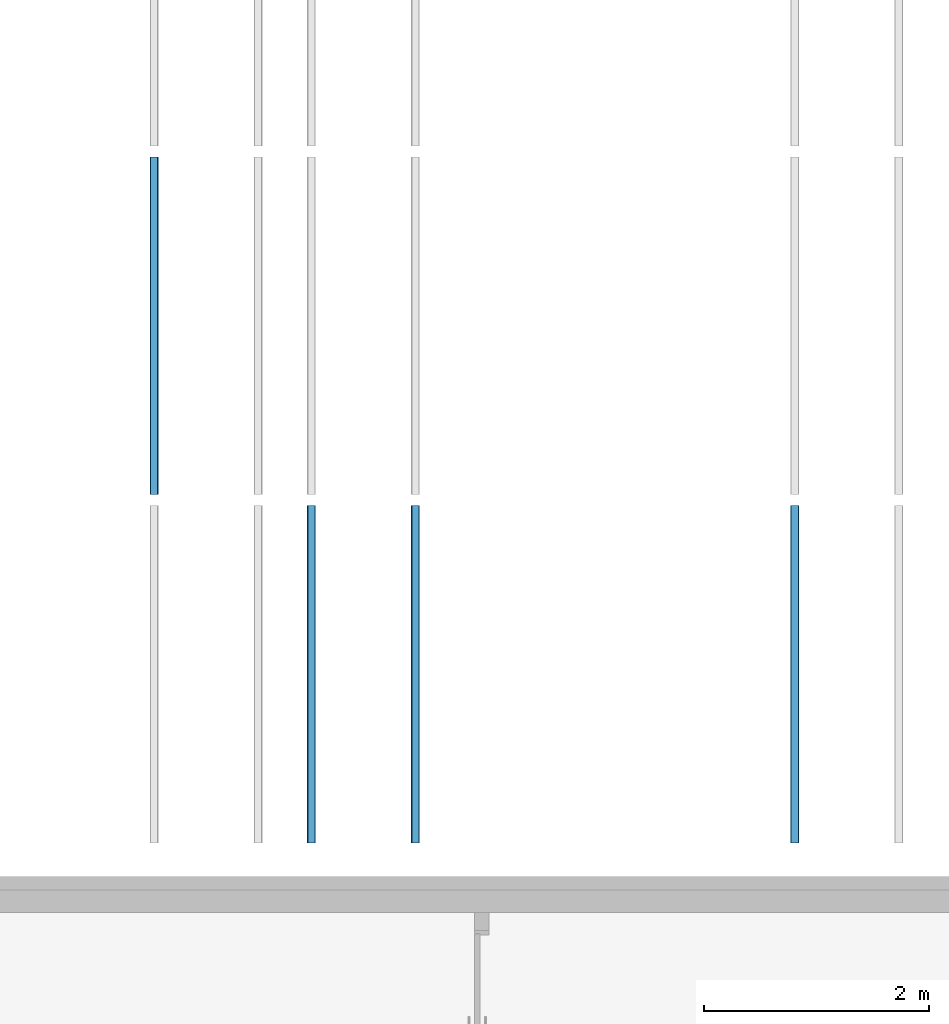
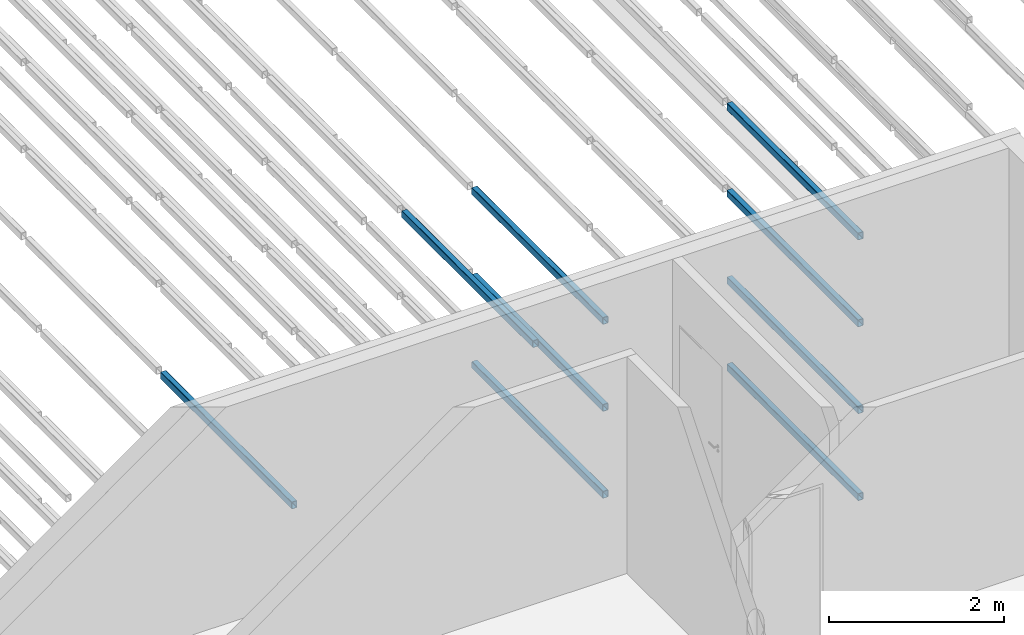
# One storey, part 28 of 290: 9 beams.
"""IFC2X3 building model written with IfcOpenShell, lengths in metres."""

from ifc_helpers import new_model, entity, si_unit, converted_unit, derived_unit, direction, frame, frame_2d, origin, place, context, subcontext, project, spatial, polyline, circle_curve, parameter, trimmed, segment, composite_curve, outline, extrude, material, type_object, element, save


model = new_model("IFC2X3")

# Units and contexts
model_context = context("Model", 3, precision=1e-05, world=origin(), true_north=direction((6.12303176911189e-17, 1.0)))
body_context = subcontext(model_context, "Body", "Model", "MODEL_VIEW")
ifc_project = project(units=[si_unit("LENGTHUNIT", "METRE"), si_unit("AREAUNIT", "SQUARE_METRE"), si_unit("VOLUMEUNIT", "CUBIC_METRE"), converted_unit("PLANEANGLEUNIT", "DEGREE", entity("IfcRatioMeasure", 0.0174532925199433), si_unit("PLANEANGLEUNIT", "RADIAN"), dimensions=[0, 0, 0, 0, 0, 0, 0]), si_unit("MASSUNIT", "GRAM", prefix="KILO"), derived_unit("MASSDENSITYUNIT", [(si_unit("MASSUNIT", "GRAM", prefix="KILO"), 1), (si_unit("LENGTHUNIT", "METRE"), -3)]), derived_unit("MOMENTOFINERTIAUNIT", [(si_unit("LENGTHUNIT", "METRE"), 4)]), si_unit("TIMEUNIT", "SECOND"), si_unit("FREQUENCYUNIT", "HERTZ"), si_unit("THERMODYNAMICTEMPERATUREUNIT", "DEGREE_CELSIUS"), derived_unit("THERMALTRANSMITTANCEUNIT", [(si_unit("MASSUNIT", "GRAM", prefix="KILO"), 1), (si_unit("THERMODYNAMICTEMPERATUREUNIT", "KELVIN"), -1), (si_unit("TIMEUNIT", "SECOND"), -3)]), derived_unit("VOLUMETRICFLOWRATEUNIT", [(si_unit("LENGTHUNIT", "METRE"), 3), (si_unit("TIMEUNIT", "SECOND"), -1)]), si_unit("ELECTRICCURRENTUNIT", "AMPERE"), si_unit("ELECTRICVOLTAGEUNIT", "VOLT"), si_unit("POWERUNIT", "WATT"), si_unit("FORCEUNIT", "NEWTON", prefix="KILO"), si_unit("ILLUMINANCEUNIT", "LUX"), si_unit("LUMINOUSFLUXUNIT", "LUMEN"), si_unit("LUMINOUSINTENSITYUNIT", "CANDELA"), derived_unit("USERDEFINED", [(si_unit("MASSUNIT", "GRAM", prefix="KILO"), -1), (si_unit("LENGTHUNIT", "METRE"), -2), (si_unit("TIMEUNIT", "SECOND"), 3), (si_unit("LUMINOUSFLUXUNIT", "LUMEN"), 1)]), derived_unit("LINEARVELOCITYUNIT", [(si_unit("LENGTHUNIT", "METRE"), 1), (si_unit("TIMEUNIT", "SECOND"), -1)]), si_unit("PRESSUREUNIT", "PASCAL"), derived_unit("USERDEFINED", [(si_unit("LENGTHUNIT", "METRE"), -2), (si_unit("MASSUNIT", "GRAM", prefix="KILO"), 1), (si_unit("TIMEUNIT", "SECOND"), -2)]), derived_unit("LINEARFORCEUNIT", [(si_unit("MASSUNIT", "GRAM", prefix="KILO"), 1), (si_unit("LENGTHUNIT", "METRE"), 1), (si_unit("TIMEUNIT", "SECOND"), -2), (si_unit("LENGTHUNIT", "METRE"), -1)]), derived_unit("PLANARFORCEUNIT", [(si_unit("MASSUNIT", "GRAM", prefix="KILO"), 1), (si_unit("LENGTHUNIT", "METRE"), 1), (si_unit("TIMEUNIT", "SECOND"), -2), (si_unit("LENGTHUNIT", "METRE"), -2)])], contexts=[model_context])

# Site, building, storey
site_placement = place(None, origin())
site = spatial("IfcSite", under=ifc_project, at=site_placement, Name="Default", CompositionType="ELEMENT")
building_placement = place(site_placement, origin())
building = spatial("IfcBuilding", under=site, at=building_placement, CompositionType="ELEMENT")
storey_placement = place(building_placement, frame((0.0, 0.0, 4.0)))
storey = spatial("IfcBuildingStorey", under=building, at=storey_placement, Name="01_OG", CompositionType="ELEMENT", Elevation=4.0)

# Beams
ifc_material = material(Name="Metall - Baustahl S235 blau")
beam_type = type_object("IfcBeamType", Name="RHS Träger (EN 10219-2):RHS 100 x 75 x 5", PredefinedType="NOTDEFINED")
beam_1_placement = place(storey_placement, frame((-183.615111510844, 24.048088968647, 2.445), z_axis=(0.0, 0.0, 1.0), x_axis=(0.0, 1.0, 0.0)))
element("IfcBeam", 1, at=beam_1_placement, inside=storey, type_object=beam_type, material=ifc_material, Name="RHS Träger (EN 10219-2):RHS 100 x 75 x 5", ObjectType="RHS Träger (EN 10219-2):RHS 100 x 75 x 5", context=body_context, shape_type="SweptSolid", body=[
    extrude(outline(composite_curve([segment(trimmed(circle_curve(frame_2d((-0.0274999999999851, -0.0399999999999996), x_axis=(1.0, 0.0)), 0.01), [parameter(180.0)], [parameter(270.0)], True, "PARAMETER"), True, "CONTINUOUS"), segment(polyline([(-0.0274999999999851, -0.0499999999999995), (0.0274999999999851, -0.0499999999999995)]), True, "CONTINUOUS"), segment(trimmed(circle_curve(frame_2d((0.0274999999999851, -0.0399999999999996), x_axis=(1.0, 0.0)), 0.01), [parameter(270.0)], [parameter(5.08888749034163e-14)], True, "PARAMETER"), True, "CONTINUOUS"), segment(polyline([(0.0375000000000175, -0.0399999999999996), (0.0375000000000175, 0.0399999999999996)]), True, "CONTINUOUS"), segment(trimmed(circle_curve(frame_2d((0.0274999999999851, 0.0399999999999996), x_axis=(1.0, 0.0)), 0.01), [parameter(360.0)], [parameter(89.9999999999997)], True, "PARAMETER"), True, "CONTINUOUS"), segment(polyline([(0.0274999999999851, 0.0500000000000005), (-0.0274999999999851, 0.0500000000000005)]), True, "CONTINUOUS"), segment(trimmed(circle_curve(frame_2d((-0.0274999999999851, 0.0399999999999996), x_axis=(1.0, 0.0)), 0.01), [parameter(90.0000000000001)], [parameter(180.0)], True, "PARAMETER"), True, "CONTINUOUS"), segment(polyline([(-0.0374999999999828, 0.0399999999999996), (-0.0374999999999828, -0.0399999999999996)]), True, "CONTINUOUS")], self_intersect=False), holes=[composite_curve([segment(polyline([(0.0274999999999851, -0.0450000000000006), (-0.0274999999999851, -0.0450000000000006)]), True, "CONTINUOUS"), segment(trimmed(circle_curve(frame_2d((-0.0274999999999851, -0.0400000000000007), x_axis=(1.0, 0.0)), 0.005), [parameter(180.0)], [parameter(270.0)], True, "PARAMETER"), False, "CONTINUOUS"), segment(polyline([(-0.0325000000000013, -0.0400000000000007), (-0.0325000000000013, 0.0399999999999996)]), True, "CONTINUOUS"), segment(trimmed(circle_curve(frame_2d((-0.0274999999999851, 0.0399999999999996), x_axis=(1.0, 0.0)), 0.005), [parameter(90.0000000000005)], [parameter(180.0)], True, "PARAMETER"), False, "CONTINUOUS"), segment(polyline([(-0.0274999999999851, 0.0449999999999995), (0.0274999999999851, 0.0449999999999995)]), True, "CONTINUOUS"), segment(trimmed(circle_curve(frame_2d((0.0274999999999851, 0.0399999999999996), x_axis=(1.0, 0.0)), 0.005), [parameter(0.0)], [parameter(90.0000000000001)], True, "PARAMETER"), False, "CONTINUOUS"), segment(polyline([(0.0325000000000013, 0.0399999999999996), (0.0325000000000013, -0.0400000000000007)]), True, "CONTINUOUS"), segment(trimmed(circle_curve(frame_2d((0.0274999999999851, -0.0400000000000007), x_axis=(1.0, 0.0)), 0.005), [parameter(270.0)], [parameter(4.07110999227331e-13)], True, "PARAMETER"), False, "CONTINUOUS")], self_intersect=False)]), frame((9.99999999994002e-05, 0.0375000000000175, -0.0500000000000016), z_axis=(1.0, 0.0, 0.0), x_axis=(0.0, -1.0, 0.0)), (0.0, 0.0, 1.0), 2.9998),
])
beam_2_placement = place(storey_placement, frame((-182.765111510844, 24.048088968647, 0.0150000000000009), z_axis=(0.0, 0.0, 1.0), x_axis=(0.0, 1.0, 0.0)))
element("IfcBeam", 2, at=beam_2_placement, inside=storey, type_object=beam_type, material=ifc_material, Name="RHS Träger (EN 10219-2):RHS 100 x 75 x 5", ObjectType="RHS Träger (EN 10219-2):RHS 100 x 75 x 5", context=body_context, shape_type="SweptSolid", body=[
    extrude(outline(composite_curve([segment(polyline([(-0.0400000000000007, -0.0374999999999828), (0.0399999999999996, -0.0374999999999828)]), True, "CONTINUOUS"), segment(trimmed(circle_curve(frame_2d((0.0399999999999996, -0.0274999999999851), x_axis=(0.0, 1.0)), 0.01), [parameter(180.0)], [parameter(270.0)], True, "PARAMETER"), True, "CONTINUOUS"), segment(polyline([(0.0499999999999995, -0.0274999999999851), (0.0499999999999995, 0.0274999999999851)]), True, "CONTINUOUS"), segment(trimmed(circle_curve(frame_2d((0.0399999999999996, 0.0274999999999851), x_axis=(0.0, 1.0)), 0.01), [parameter(270.0)], [parameter(4.07110999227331e-13)], True, "PARAMETER"), True, "CONTINUOUS"), segment(polyline([(0.0399999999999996, 0.0375000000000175), (-0.0400000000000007, 0.0375000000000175)]), True, "CONTINUOUS"), segment(trimmed(circle_curve(frame_2d((-0.0400000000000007, 0.0274999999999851), x_axis=(0.0, 1.0)), 0.01), [parameter(360.0)], [parameter(90.0000000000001)], True, "PARAMETER"), True, "CONTINUOUS"), segment(polyline([(-0.0500000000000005, 0.0274999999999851), (-0.0500000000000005, -0.0274999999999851)]), True, "CONTINUOUS"), segment(trimmed(circle_curve(frame_2d((-0.0400000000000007, -0.0274999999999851), x_axis=(0.0, 1.0)), 0.01), [parameter(90.0000000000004)], [parameter(180.0)], True, "PARAMETER"), True, "CONTINUOUS")], self_intersect=False), holes=[composite_curve([segment(trimmed(circle_curve(frame_2d((-0.0400000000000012, 0.0274999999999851), x_axis=(0.0, 1.0)), 0.005), [parameter(360.0)], [parameter(89.9999999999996)], True, "PARAMETER"), False, "CONTINUOUS"), segment(polyline([(-0.0400000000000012, 0.0325000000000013), (0.0399999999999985, 0.0325000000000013)]), True, "CONTINUOUS"), segment(trimmed(circle_curve(frame_2d((0.0399999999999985, 0.0274999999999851), x_axis=(0.0, 1.0)), 0.005), [parameter(270.0)], [parameter(0.0)], True, "PARAMETER"), False, "CONTINUOUS"), segment(polyline([(0.0449999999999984, 0.0274999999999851), (0.0449999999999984, -0.0274999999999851)]), True, "CONTINUOUS"), segment(trimmed(circle_curve(frame_2d((0.0399999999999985, -0.0274999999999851), x_axis=(0.0, 1.0)), 0.005), [parameter(180.0)], [parameter(269.999999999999)], True, "PARAMETER"), False, "CONTINUOUS"), segment(polyline([(0.0399999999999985, -0.0325000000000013), (-0.0400000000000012, -0.0325000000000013)]), True, "CONTINUOUS"), segment(trimmed(circle_curve(frame_2d((-0.0400000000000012, -0.0274999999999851), x_axis=(0.0, 1.0)), 0.005), [parameter(90.0000000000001)], [parameter(180.0)], True, "PARAMETER"), False, "CONTINUOUS"), segment(polyline([(-0.0450000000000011, -0.0274999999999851), (-0.0450000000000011, 0.0274999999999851)]), True, "CONTINUOUS")], self_intersect=False)]), frame((9.99999999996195e-05, -0.0375000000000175, -0.0500000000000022), z_axis=(1.0, 0.0, 0.0), x_axis=(0.0, 0.0, -1.0)), (0.0, 0.0, 1.0), 2.9998),
])
beam_3_placement = place(storey_placement, frame((-182.765111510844, 24.048088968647, 1.23), z_axis=(0.0, 0.0, 1.0), x_axis=(0.0, 1.0, 0.0)))
element("IfcBeam", 3, at=beam_3_placement, inside=storey, type_object=beam_type, material=ifc_material, Name="RHS Träger (EN 10219-2):RHS 100 x 75 x 5", ObjectType="RHS Träger (EN 10219-2):RHS 100 x 75 x 5", context=body_context, shape_type="SweptSolid", body=[
    extrude(outline(composite_curve([segment(polyline([(-0.0399999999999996, -0.0374999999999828), (0.0399999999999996, -0.0374999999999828)]), True, "CONTINUOUS"), segment(trimmed(circle_curve(frame_2d((0.0399999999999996, -0.0274999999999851), x_axis=(0.0, 1.0)), 0.01), [parameter(180.0)], [parameter(270.0)], True, "PARAMETER"), True, "CONTINUOUS"), segment(polyline([(0.0500000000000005, -0.0274999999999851), (0.0500000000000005, 0.0274999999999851)]), True, "CONTINUOUS"), segment(trimmed(circle_curve(frame_2d((0.0399999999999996, 0.0274999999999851), x_axis=(0.0, 1.0)), 0.01), [parameter(270.0)], [parameter(4.07110999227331e-13)], True, "PARAMETER"), True, "CONTINUOUS"), segment(polyline([(0.0399999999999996, 0.0375000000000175), (-0.0399999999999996, 0.0375000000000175)]), True, "CONTINUOUS"), segment(trimmed(circle_curve(frame_2d((-0.0399999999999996, 0.0274999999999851), x_axis=(0.0, 1.0)), 0.01), [parameter(360.0)], [parameter(90.0000000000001)], True, "PARAMETER"), True, "CONTINUOUS"), segment(polyline([(-0.0499999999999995, 0.0274999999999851), (-0.0499999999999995, -0.0274999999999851)]), True, "CONTINUOUS"), segment(trimmed(circle_curve(frame_2d((-0.0399999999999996, -0.0274999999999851), x_axis=(0.0, 1.0)), 0.01), [parameter(90.0000000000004)], [parameter(180.0)], True, "PARAMETER"), True, "CONTINUOUS")], self_intersect=False), holes=[composite_curve([segment(trimmed(circle_curve(frame_2d((-0.0400000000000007, 0.0274999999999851), x_axis=(0.0, 1.0)), 0.005), [parameter(360.0)], [parameter(89.9999999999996)], True, "PARAMETER"), False, "CONTINUOUS"), segment(polyline([(-0.0400000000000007, 0.0325000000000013), (0.0399999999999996, 0.0325000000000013)]), True, "CONTINUOUS"), segment(trimmed(circle_curve(frame_2d((0.0399999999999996, 0.0274999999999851), x_axis=(0.0, 1.0)), 0.005), [parameter(270.0)], [parameter(0.0)], True, "PARAMETER"), False, "CONTINUOUS"), segment(polyline([(0.0449999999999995, 0.0274999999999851), (0.0449999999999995, -0.0274999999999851)]), True, "CONTINUOUS"), segment(trimmed(circle_curve(frame_2d((0.0399999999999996, -0.0274999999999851), x_axis=(0.0, 1.0)), 0.005), [parameter(180.0)], [parameter(269.999999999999)], True, "PARAMETER"), False, "CONTINUOUS"), segment(polyline([(0.0399999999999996, -0.0325000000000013), (-0.0400000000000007, -0.0325000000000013)]), True, "CONTINUOUS"), segment(trimmed(circle_curve(frame_2d((-0.0400000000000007, -0.0274999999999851), x_axis=(0.0, 1.0)), 0.005), [parameter(90.0000000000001)], [parameter(180.0)], True, "PARAMETER"), False, "CONTINUOUS"), segment(polyline([(-0.0450000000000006, -0.0274999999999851), (-0.0450000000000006, 0.0274999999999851)]), True, "CONTINUOUS")], self_intersect=False)]), frame((9.99999999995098e-05, -0.0375000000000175, -0.0500000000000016), z_axis=(1.0, 0.0, 0.0), x_axis=(0.0, 0.0, -1.0)), (0.0, 0.0, 1.0), 2.9998),
])
beam_4_placement = place(storey_placement, frame((-182.765111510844, 24.048088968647, 2.445), z_axis=(0.0, 0.0, 1.0), x_axis=(0.0, 1.0, 0.0)))
element("IfcBeam", 4, at=beam_4_placement, inside=storey, type_object=beam_type, material=ifc_material, Name="RHS Träger (EN 10219-2):RHS 100 x 75 x 5", ObjectType="RHS Träger (EN 10219-2):RHS 100 x 75 x 5", context=body_context, shape_type="SweptSolid", body=[
    extrude(outline(composite_curve([segment(polyline([(-0.0399999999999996, -0.0374999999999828), (0.0399999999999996, -0.0374999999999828)]), True, "CONTINUOUS"), segment(trimmed(circle_curve(frame_2d((0.0399999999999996, -0.0274999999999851), x_axis=(0.0, 1.0)), 0.01), [parameter(180.0)], [parameter(270.0)], True, "PARAMETER"), True, "CONTINUOUS"), segment(polyline([(0.0500000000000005, -0.0274999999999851), (0.0500000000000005, 0.0274999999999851)]), True, "CONTINUOUS"), segment(trimmed(circle_curve(frame_2d((0.0399999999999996, 0.0274999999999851), x_axis=(0.0, 1.0)), 0.01), [parameter(270.0)], [parameter(4.07110999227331e-13)], True, "PARAMETER"), True, "CONTINUOUS"), segment(polyline([(0.0399999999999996, 0.0375000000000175), (-0.0399999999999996, 0.0375000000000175)]), True, "CONTINUOUS"), segment(trimmed(circle_curve(frame_2d((-0.0399999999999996, 0.0274999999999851), x_axis=(0.0, 1.0)), 0.01), [parameter(360.0)], [parameter(90.0000000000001)], True, "PARAMETER"), True, "CONTINUOUS"), segment(polyline([(-0.0499999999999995, 0.0274999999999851), (-0.0499999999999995, -0.0274999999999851)]), True, "CONTINUOUS"), segment(trimmed(circle_curve(frame_2d((-0.0399999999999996, -0.0274999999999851), x_axis=(0.0, 1.0)), 0.01), [parameter(90.0000000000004)], [parameter(180.0)], True, "PARAMETER"), True, "CONTINUOUS")], self_intersect=False), holes=[composite_curve([segment(trimmed(circle_curve(frame_2d((-0.0400000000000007, 0.0274999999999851), x_axis=(0.0, 1.0)), 0.005), [parameter(360.0)], [parameter(89.9999999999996)], True, "PARAMETER"), False, "CONTINUOUS"), segment(polyline([(-0.0400000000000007, 0.0325000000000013), (0.0399999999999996, 0.0325000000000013)]), True, "CONTINUOUS"), segment(trimmed(circle_curve(frame_2d((0.0399999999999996, 0.0274999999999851), x_axis=(0.0, 1.0)), 0.005), [parameter(270.0)], [parameter(0.0)], True, "PARAMETER"), False, "CONTINUOUS"), segment(polyline([(0.0449999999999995, 0.0274999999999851), (0.0449999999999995, -0.0274999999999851)]), True, "CONTINUOUS"), segment(trimmed(circle_curve(frame_2d((0.0399999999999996, -0.0274999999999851), x_axis=(0.0, 1.0)), 0.005), [parameter(180.0)], [parameter(269.999999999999)], True, "PARAMETER"), False, "CONTINUOUS"), segment(polyline([(0.0399999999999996, -0.0325000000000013), (-0.0400000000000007, -0.0325000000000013)]), True, "CONTINUOUS"), segment(trimmed(circle_curve(frame_2d((-0.0400000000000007, -0.0274999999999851), x_axis=(0.0, 1.0)), 0.005), [parameter(90.0000000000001)], [parameter(180.0)], True, "PARAMETER"), False, "CONTINUOUS"), segment(polyline([(-0.0450000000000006, -0.0274999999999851), (-0.0450000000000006, 0.0274999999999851)]), True, "CONTINUOUS")], self_intersect=False)]), frame((9.99999999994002e-05, -0.0375000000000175, -0.0500000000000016), z_axis=(1.0, 0.0, 0.0), x_axis=(0.0, 0.0, -1.0)), (0.0, 0.0, 1.0), 2.9998),
])
beam_5_placement = place(storey_placement, frame((-179.315111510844, 24.048088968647, 0.0150000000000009), z_axis=(0.0, 0.0, 1.0), x_axis=(0.0, 1.0, 0.0)))
element("IfcBeam", 5, at=beam_5_placement, inside=storey, type_object=beam_type, material=ifc_material, Name="RHS Träger (EN 10219-2):RHS 100 x 75 x 5", ObjectType="RHS Träger (EN 10219-2):RHS 100 x 75 x 5", context=body_context, shape_type="SweptSolid", body=[
    extrude(outline(composite_curve([segment(trimmed(circle_curve(frame_2d((-0.0274999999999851, -0.0400000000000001), x_axis=(1.0, 0.0)), 0.01), [parameter(180.0)], [parameter(270.0)], True, "PARAMETER"), True, "CONTINUOUS"), segment(polyline([(-0.0274999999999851, -0.05), (0.0274999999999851, -0.05)]), True, "CONTINUOUS"), segment(trimmed(circle_curve(frame_2d((0.0274999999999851, -0.0400000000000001), x_axis=(1.0, 0.0)), 0.01), [parameter(270.0)], [parameter(5.08888749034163e-14)], True, "PARAMETER"), True, "CONTINUOUS"), segment(polyline([(0.0375000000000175, -0.0400000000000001), (0.0375000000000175, 0.0400000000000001)]), True, "CONTINUOUS"), segment(trimmed(circle_curve(frame_2d((0.0274999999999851, 0.0400000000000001), x_axis=(1.0, 0.0)), 0.01), [parameter(360.0)], [parameter(89.9999999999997)], True, "PARAMETER"), True, "CONTINUOUS"), segment(polyline([(0.0274999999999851, 0.05), (-0.0274999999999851, 0.05)]), True, "CONTINUOUS"), segment(trimmed(circle_curve(frame_2d((-0.0274999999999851, 0.0400000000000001), x_axis=(1.0, 0.0)), 0.01), [parameter(90.0000000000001)], [parameter(180.0)], True, "PARAMETER"), True, "CONTINUOUS"), segment(polyline([(-0.0374999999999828, 0.0400000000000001), (-0.0374999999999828, -0.0400000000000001)]), True, "CONTINUOUS")], self_intersect=False), holes=[composite_curve([segment(polyline([(0.0274999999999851, -0.0450000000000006), (-0.0274999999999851, -0.0450000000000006)]), True, "CONTINUOUS"), segment(trimmed(circle_curve(frame_2d((-0.0274999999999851, -0.0400000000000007), x_axis=(1.0, 0.0)), 0.005), [parameter(180.0)], [parameter(270.0)], True, "PARAMETER"), False, "CONTINUOUS"), segment(polyline([(-0.0325000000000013, -0.0400000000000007), (-0.0325000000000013, 0.039999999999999)]), True, "CONTINUOUS"), segment(trimmed(circle_curve(frame_2d((-0.0274999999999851, 0.039999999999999), x_axis=(1.0, 0.0)), 0.005), [parameter(90.0000000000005)], [parameter(180.0)], True, "PARAMETER"), False, "CONTINUOUS"), segment(polyline([(-0.0274999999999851, 0.044999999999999), (0.0274999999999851, 0.044999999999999)]), True, "CONTINUOUS"), segment(trimmed(circle_curve(frame_2d((0.0274999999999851, 0.039999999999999), x_axis=(1.0, 0.0)), 0.005), [parameter(0.0)], [parameter(90.0000000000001)], True, "PARAMETER"), False, "CONTINUOUS"), segment(polyline([(0.0325000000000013, 0.039999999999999), (0.0325000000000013, -0.0400000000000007)]), True, "CONTINUOUS"), segment(trimmed(circle_curve(frame_2d((0.0274999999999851, -0.0400000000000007), x_axis=(1.0, 0.0)), 0.005), [parameter(270.0)], [parameter(4.07110999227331e-13)], True, "PARAMETER"), False, "CONTINUOUS")], self_intersect=False)]), frame((9.99999999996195e-05, 0.0375000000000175, -0.0500000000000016), z_axis=(1.0, 0.0, 0.0), x_axis=(0.0, -1.0, 0.0)), (0.0, 0.0, 1.0), 2.9998),
])
beam_6_placement = place(storey_placement, frame((-179.315111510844, 24.048088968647, 1.23), z_axis=(0.0, 0.0, 1.0), x_axis=(0.0, 1.0, 0.0)))
element("IfcBeam", 6, at=beam_6_placement, inside=storey, type_object=beam_type, material=ifc_material, Name="RHS Träger (EN 10219-2):RHS 100 x 75 x 5", ObjectType="RHS Träger (EN 10219-2):RHS 100 x 75 x 5", context=body_context, shape_type="SweptSolid", body=[
    extrude(outline(composite_curve([segment(trimmed(circle_curve(frame_2d((-0.0274999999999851, -0.0399999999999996), x_axis=(1.0, 0.0)), 0.01), [parameter(180.0)], [parameter(270.0)], True, "PARAMETER"), True, "CONTINUOUS"), segment(polyline([(-0.0274999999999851, -0.0499999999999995), (0.0274999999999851, -0.0499999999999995)]), True, "CONTINUOUS"), segment(trimmed(circle_curve(frame_2d((0.0274999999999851, -0.0399999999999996), x_axis=(1.0, 0.0)), 0.01), [parameter(270.0)], [parameter(5.08888749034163e-14)], True, "PARAMETER"), True, "CONTINUOUS"), segment(polyline([(0.0375000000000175, -0.0399999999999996), (0.0375000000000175, 0.0399999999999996)]), True, "CONTINUOUS"), segment(trimmed(circle_curve(frame_2d((0.0274999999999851, 0.0399999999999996), x_axis=(1.0, 0.0)), 0.01), [parameter(360.0)], [parameter(89.9999999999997)], True, "PARAMETER"), True, "CONTINUOUS"), segment(polyline([(0.0274999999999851, 0.0500000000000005), (-0.0274999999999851, 0.0500000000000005)]), True, "CONTINUOUS"), segment(trimmed(circle_curve(frame_2d((-0.0274999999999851, 0.0399999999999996), x_axis=(1.0, 0.0)), 0.01), [parameter(90.0000000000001)], [parameter(180.0)], True, "PARAMETER"), True, "CONTINUOUS"), segment(polyline([(-0.0374999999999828, 0.0399999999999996), (-0.0374999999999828, -0.0399999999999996)]), True, "CONTINUOUS")], self_intersect=False), holes=[composite_curve([segment(polyline([(0.0274999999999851, -0.0450000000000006), (-0.0274999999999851, -0.0450000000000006)]), True, "CONTINUOUS"), segment(trimmed(circle_curve(frame_2d((-0.0274999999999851, -0.0400000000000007), x_axis=(1.0, 0.0)), 0.005), [parameter(180.0)], [parameter(270.0)], True, "PARAMETER"), False, "CONTINUOUS"), segment(polyline([(-0.0325000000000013, -0.0400000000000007), (-0.0325000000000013, 0.0399999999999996)]), True, "CONTINUOUS"), segment(trimmed(circle_curve(frame_2d((-0.0274999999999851, 0.0399999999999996), x_axis=(1.0, 0.0)), 0.005), [parameter(90.0000000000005)], [parameter(180.0)], True, "PARAMETER"), False, "CONTINUOUS"), segment(polyline([(-0.0274999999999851, 0.0449999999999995), (0.0274999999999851, 0.0449999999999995)]), True, "CONTINUOUS"), segment(trimmed(circle_curve(frame_2d((0.0274999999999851, 0.0399999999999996), x_axis=(1.0, 0.0)), 0.005), [parameter(0.0)], [parameter(90.0000000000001)], True, "PARAMETER"), False, "CONTINUOUS"), segment(polyline([(0.0325000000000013, 0.0399999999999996), (0.0325000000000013, -0.0400000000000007)]), True, "CONTINUOUS"), segment(trimmed(circle_curve(frame_2d((0.0274999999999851, -0.0400000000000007), x_axis=(1.0, 0.0)), 0.005), [parameter(270.0)], [parameter(4.07110999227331e-13)], True, "PARAMETER"), False, "CONTINUOUS")], self_intersect=False)]), frame((9.99999999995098e-05, 0.0375000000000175, -0.0500000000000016), z_axis=(1.0, 0.0, 0.0), x_axis=(0.0, -1.0, 0.0)), (0.0, 0.0, 1.0), 2.9998),
])
beam_7_placement = place(storey_placement, frame((-179.315111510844, 24.048088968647, 2.445), z_axis=(0.0, 0.0, 1.0), x_axis=(0.0, 1.0, 0.0)))
element("IfcBeam", 7, at=beam_7_placement, inside=storey, type_object=beam_type, material=ifc_material, Name="RHS Träger (EN 10219-2):RHS 100 x 75 x 5", ObjectType="RHS Träger (EN 10219-2):RHS 100 x 75 x 5", context=body_context, shape_type="SweptSolid", body=[
    extrude(outline(composite_curve([segment(trimmed(circle_curve(frame_2d((-0.0274999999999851, -0.0399999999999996), x_axis=(1.0, 0.0)), 0.01), [parameter(180.0)], [parameter(270.0)], True, "PARAMETER"), True, "CONTINUOUS"), segment(polyline([(-0.0274999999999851, -0.0499999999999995), (0.0274999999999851, -0.0499999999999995)]), True, "CONTINUOUS"), segment(trimmed(circle_curve(frame_2d((0.0274999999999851, -0.0399999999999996), x_axis=(1.0, 0.0)), 0.01), [parameter(270.0)], [parameter(5.08888749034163e-14)], True, "PARAMETER"), True, "CONTINUOUS"), segment(polyline([(0.0375000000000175, -0.0399999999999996), (0.0375000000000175, 0.0399999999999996)]), True, "CONTINUOUS"), segment(trimmed(circle_curve(frame_2d((0.0274999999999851, 0.0399999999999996), x_axis=(1.0, 0.0)), 0.01), [parameter(360.0)], [parameter(89.9999999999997)], True, "PARAMETER"), True, "CONTINUOUS"), segment(polyline([(0.0274999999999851, 0.0500000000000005), (-0.0274999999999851, 0.0500000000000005)]), True, "CONTINUOUS"), segment(trimmed(circle_curve(frame_2d((-0.0274999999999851, 0.0399999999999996), x_axis=(1.0, 0.0)), 0.01), [parameter(90.0000000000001)], [parameter(180.0)], True, "PARAMETER"), True, "CONTINUOUS"), segment(polyline([(-0.0374999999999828, 0.0399999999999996), (-0.0374999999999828, -0.0399999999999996)]), True, "CONTINUOUS")], self_intersect=False), holes=[composite_curve([segment(polyline([(0.0274999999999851, -0.0450000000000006), (-0.0274999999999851, -0.0450000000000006)]), True, "CONTINUOUS"), segment(trimmed(circle_curve(frame_2d((-0.0274999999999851, -0.0400000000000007), x_axis=(1.0, 0.0)), 0.005), [parameter(180.0)], [parameter(270.0)], True, "PARAMETER"), False, "CONTINUOUS"), segment(polyline([(-0.0325000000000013, -0.0400000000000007), (-0.0325000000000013, 0.0399999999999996)]), True, "CONTINUOUS"), segment(trimmed(circle_curve(frame_2d((-0.0274999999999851, 0.0399999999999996), x_axis=(1.0, 0.0)), 0.005), [parameter(90.0000000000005)], [parameter(180.0)], True, "PARAMETER"), False, "CONTINUOUS"), segment(polyline([(-0.0274999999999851, 0.0449999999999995), (0.0274999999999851, 0.0449999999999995)]), True, "CONTINUOUS"), segment(trimmed(circle_curve(frame_2d((0.0274999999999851, 0.0399999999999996), x_axis=(1.0, 0.0)), 0.005), [parameter(0.0)], [parameter(90.0000000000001)], True, "PARAMETER"), False, "CONTINUOUS"), segment(polyline([(0.0325000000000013, 0.0399999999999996), (0.0325000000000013, -0.0400000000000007)]), True, "CONTINUOUS"), segment(trimmed(circle_curve(frame_2d((0.0274999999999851, -0.0400000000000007), x_axis=(1.0, 0.0)), 0.005), [parameter(270.0)], [parameter(4.07110999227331e-13)], True, "PARAMETER"), False, "CONTINUOUS")], self_intersect=False)]), frame((9.99999999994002e-05, 0.0375000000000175, -0.0500000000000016), z_axis=(1.0, 0.0, 0.0), x_axis=(0.0, -1.0, 0.0)), (0.0, 0.0, 1.0), 2.9998),
])
beam_8_placement = place(storey_placement, frame((-185.015111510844, 27.148088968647, -1.2), z_axis=(0.0, 0.0, 1.0), x_axis=(0.0, 1.0, 0.0)))
element("IfcBeam", 8, at=beam_8_placement, inside=storey, type_object=beam_type, material=ifc_material, Name="RHS Träger (EN 10219-2):RHS 100 x 75 x 5", ObjectType="RHS Träger (EN 10219-2):RHS 100 x 75 x 5", context=body_context, shape_type="SweptSolid", body=[
    extrude(outline(composite_curve([segment(trimmed(circle_curve(frame_2d((-0.0274999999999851, -0.0400000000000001), x_axis=(1.0, 0.0)), 0.01), [parameter(180.0)], [parameter(270.0)], True, "PARAMETER"), True, "CONTINUOUS"), segment(polyline([(-0.0274999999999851, -0.05), (0.0274999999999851, -0.05)]), True, "CONTINUOUS"), segment(trimmed(circle_curve(frame_2d((0.0274999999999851, -0.0400000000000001), x_axis=(1.0, 0.0)), 0.01), [parameter(270.0)], [parameter(5.08888749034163e-14)], True, "PARAMETER"), True, "CONTINUOUS"), segment(polyline([(0.0375000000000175, -0.0400000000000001), (0.0375000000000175, 0.0400000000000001)]), True, "CONTINUOUS"), segment(trimmed(circle_curve(frame_2d((0.0274999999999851, 0.0400000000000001), x_axis=(1.0, 0.0)), 0.01), [parameter(360.0)], [parameter(89.9999999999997)], True, "PARAMETER"), True, "CONTINUOUS"), segment(polyline([(0.0274999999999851, 0.05), (-0.0274999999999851, 0.05)]), True, "CONTINUOUS"), segment(trimmed(circle_curve(frame_2d((-0.0274999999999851, 0.0400000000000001), x_axis=(1.0, 0.0)), 0.01), [parameter(90.0000000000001)], [parameter(180.0)], True, "PARAMETER"), True, "CONTINUOUS"), segment(polyline([(-0.0374999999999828, 0.0400000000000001), (-0.0374999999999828, -0.0400000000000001)]), True, "CONTINUOUS")], self_intersect=False), holes=[composite_curve([segment(polyline([(0.0274999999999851, -0.0450000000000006), (-0.0274999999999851, -0.0450000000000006)]), True, "CONTINUOUS"), segment(trimmed(circle_curve(frame_2d((-0.0274999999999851, -0.0400000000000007), x_axis=(1.0, 0.0)), 0.005), [parameter(180.0)], [parameter(270.0)], True, "PARAMETER"), False, "CONTINUOUS"), segment(polyline([(-0.0325000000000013, -0.0400000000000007), (-0.0325000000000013, 0.039999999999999)]), True, "CONTINUOUS"), segment(trimmed(circle_curve(frame_2d((-0.0274999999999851, 0.039999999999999), x_axis=(1.0, 0.0)), 0.005), [parameter(90.0000000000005)], [parameter(180.0)], True, "PARAMETER"), False, "CONTINUOUS"), segment(polyline([(-0.0274999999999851, 0.044999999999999), (0.0274999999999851, 0.044999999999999)]), True, "CONTINUOUS"), segment(trimmed(circle_curve(frame_2d((0.0274999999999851, 0.039999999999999), x_axis=(1.0, 0.0)), 0.005), [parameter(0.0)], [parameter(90.0000000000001)], True, "PARAMETER"), False, "CONTINUOUS"), segment(polyline([(0.0325000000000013, 0.039999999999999), (0.0325000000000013, -0.0400000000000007)]), True, "CONTINUOUS"), segment(trimmed(circle_curve(frame_2d((0.0274999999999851, -0.0400000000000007), x_axis=(1.0, 0.0)), 0.005), [parameter(270.0)], [parameter(4.07110999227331e-13)], True, "PARAMETER"), False, "CONTINUOUS")], self_intersect=False)]), frame((9.99999999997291e-05, 0.0375000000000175, -0.0500000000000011), z_axis=(1.0, 0.0, 0.0), x_axis=(0.0, -1.0, 0.0)), (0.0, 0.0, 1.0), 2.9998),
])
beam_9_placement = place(storey_placement, frame((-179.315111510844, 24.048088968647, -1.2), z_axis=(0.0, 0.0, 1.0), x_axis=(0.0, 1.0, 0.0)))
element("IfcBeam", 9, at=beam_9_placement, inside=storey, type_object=beam_type, material=ifc_material, Name="RHS Träger (EN 10219-2):RHS 100 x 75 x 5", ObjectType="RHS Träger (EN 10219-2):RHS 100 x 75 x 5", context=body_context, shape_type="SweptSolid", body=[
    extrude(outline(composite_curve([segment(trimmed(circle_curve(frame_2d((-0.0274999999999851, -0.0400000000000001), x_axis=(1.0, 0.0)), 0.01), [parameter(180.0)], [parameter(270.0)], True, "PARAMETER"), True, "CONTINUOUS"), segment(polyline([(-0.0274999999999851, -0.05), (0.0274999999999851, -0.05)]), True, "CONTINUOUS"), segment(trimmed(circle_curve(frame_2d((0.0274999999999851, -0.0400000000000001), x_axis=(1.0, 0.0)), 0.01), [parameter(270.0)], [parameter(5.08888749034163e-14)], True, "PARAMETER"), True, "CONTINUOUS"), segment(polyline([(0.0375000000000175, -0.0400000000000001), (0.0375000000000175, 0.0400000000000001)]), True, "CONTINUOUS"), segment(trimmed(circle_curve(frame_2d((0.0274999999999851, 0.0400000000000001), x_axis=(1.0, 0.0)), 0.01), [parameter(360.0)], [parameter(89.9999999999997)], True, "PARAMETER"), True, "CONTINUOUS"), segment(polyline([(0.0274999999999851, 0.05), (-0.0274999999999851, 0.05)]), True, "CONTINUOUS"), segment(trimmed(circle_curve(frame_2d((-0.0274999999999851, 0.0400000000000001), x_axis=(1.0, 0.0)), 0.01), [parameter(90.0000000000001)], [parameter(180.0)], True, "PARAMETER"), True, "CONTINUOUS"), segment(polyline([(-0.0374999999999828, 0.0400000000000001), (-0.0374999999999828, -0.0400000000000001)]), True, "CONTINUOUS")], self_intersect=False), holes=[composite_curve([segment(polyline([(0.0274999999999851, -0.0450000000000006), (-0.0274999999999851, -0.0450000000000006)]), True, "CONTINUOUS"), segment(trimmed(circle_curve(frame_2d((-0.0274999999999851, -0.0400000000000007), x_axis=(1.0, 0.0)), 0.005), [parameter(180.0)], [parameter(270.0)], True, "PARAMETER"), False, "CONTINUOUS"), segment(polyline([(-0.0325000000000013, -0.0400000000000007), (-0.0325000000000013, 0.039999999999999)]), True, "CONTINUOUS"), segment(trimmed(circle_curve(frame_2d((-0.0274999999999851, 0.039999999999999), x_axis=(1.0, 0.0)), 0.005), [parameter(90.0000000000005)], [parameter(180.0)], True, "PARAMETER"), False, "CONTINUOUS"), segment(polyline([(-0.0274999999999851, 0.044999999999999), (0.0274999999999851, 0.044999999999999)]), True, "CONTINUOUS"), segment(trimmed(circle_curve(frame_2d((0.0274999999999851, 0.039999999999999), x_axis=(1.0, 0.0)), 0.005), [parameter(0.0)], [parameter(90.0000000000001)], True, "PARAMETER"), False, "CONTINUOUS"), segment(polyline([(0.0325000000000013, 0.039999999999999), (0.0325000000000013, -0.0400000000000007)]), True, "CONTINUOUS"), segment(trimmed(circle_curve(frame_2d((0.0274999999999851, -0.0400000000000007), x_axis=(1.0, 0.0)), 0.005), [parameter(270.0)], [parameter(4.07110999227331e-13)], True, "PARAMETER"), False, "CONTINUOUS")], self_intersect=False)]), frame((9.99999999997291e-05, 0.0375000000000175, -0.0500000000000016), z_axis=(1.0, 0.0, 0.0), x_axis=(0.0, -1.0, 0.0)), (0.0, 0.0, 1.0), 2.9998),
])

save(model, "model.ifc")
